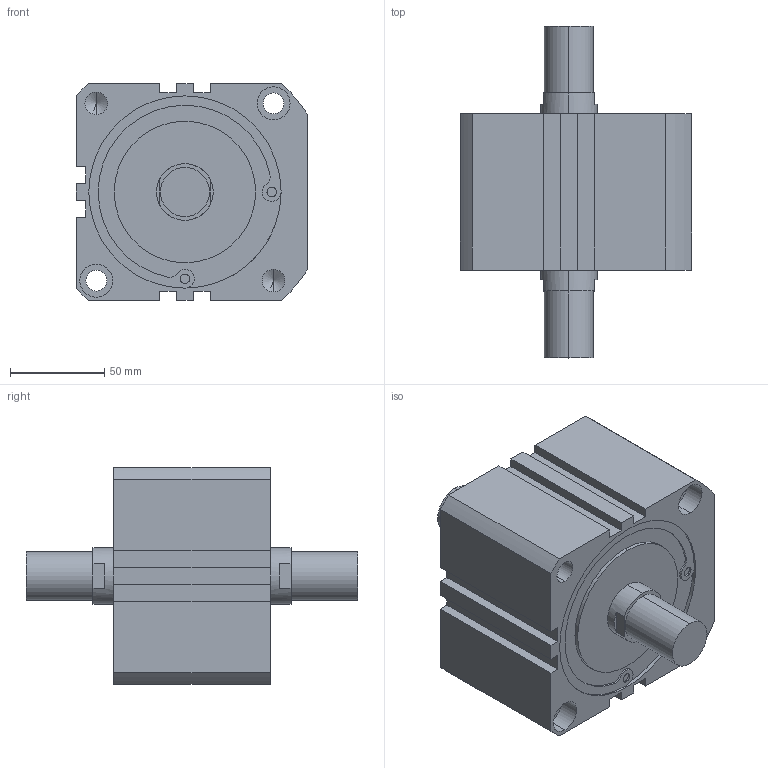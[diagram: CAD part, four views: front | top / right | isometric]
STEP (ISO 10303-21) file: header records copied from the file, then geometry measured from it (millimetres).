
FILE_DESCRIPTION (( 'STEP AP203' ), '1' );
FILE_NAME ('XC#M7-100D-10.STEP', '2016-05-23T09:05:59', ( '' ), ( '' ), 'SwSTEP 2.0', 'SolidWorks 2014', '' );
FILE_SCHEMA (( 'CONFIG_CONTROL_DESIGN' ));
Length unit declared in the file: millimetre
Products named in the file (1): XC#M7-100D-10
Bounding box: 122.5 x 176 x 115 mm (x, y, z)
Volume: 1123583 mm3; surface area: 92323 mm2
Topology: 1 solids, 1 shells, 140 faces, 346 edges, 220 vertices
Faces by surface type: cylinder 66, plane 58, cone 16
Entity records: 4189 total; most frequent: DIRECTION 766, CARTESIAN_POINT 695, ORIENTED_EDGE 668, EDGE_CURVE 334, AXIS2_PLACEMENT_3D 291, VERTEX_POINT 220, VECTOR 184, LINE 184
